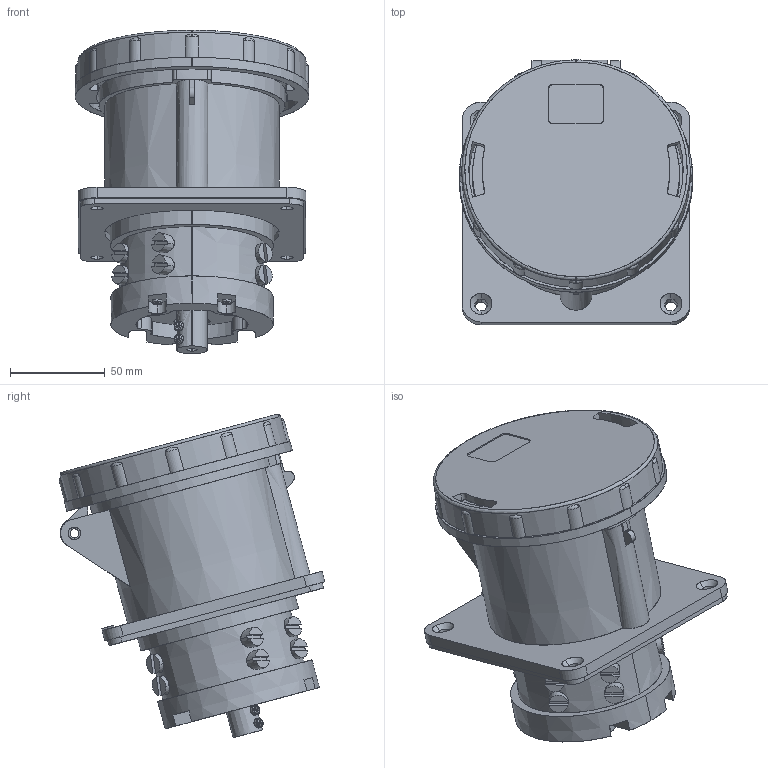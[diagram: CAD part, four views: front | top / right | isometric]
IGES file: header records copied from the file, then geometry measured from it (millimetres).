
Start section: SolidWorks IGES file using analytic representation for surfaces
Global section: file name: D:\X - Arquivos\PROEX\Empresas\P11 - METALTEX\01 - Produtos\IGES\5ª remessa\5ª etapa\TLR125653.IGS; native system: SolidWorks 2012; preprocessor: SolidWorks 2012; author: Usuario; date: 181024.170413; units: millimetre
Bounding box: 123 x 139.93 x 170.41 mm (x, y, z)
Surface area: 135786.3 mm2 (no closed solid volume)
Topology: 0 solids, 0 shells, 560 faces, 8685 edges, 8685 vertices
Faces by surface type: bspline 364, revolution 196
